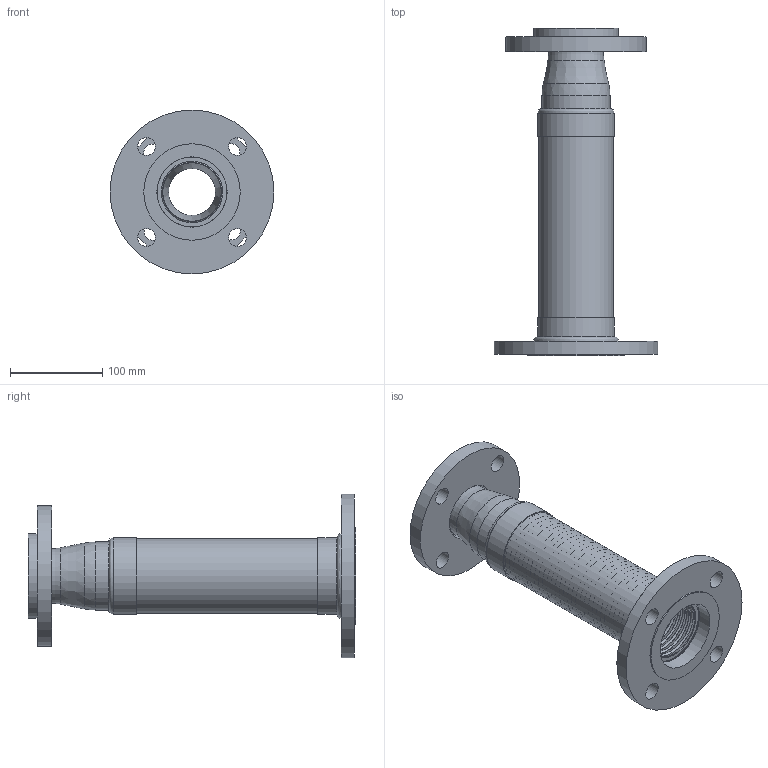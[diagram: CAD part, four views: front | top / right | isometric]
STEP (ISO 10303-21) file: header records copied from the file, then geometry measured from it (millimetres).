
FILE_DESCRIPTION((''),'2;1');
FILE_NAME('C:\2012_Work\Designs\RFFL\RFFL-2.5x2in.stp','2013-08-19T13:44:44',('KShiels'),(''),'Autodesk Inventor 2012','Autodesk Inventor 2012','');
FILE_SCHEMA(('AUTOMOTIVE_DESIGN { 1 0 10303 214 1 1 1 1 }'));
Length unit declared in the file: inch
Products named in the file (9): RFFL-2; RFFL-2_Welds; A-30992_2; A-30988_2; A-30989_2in-FLOATING-FLANGE; A-30991_2; A-30990_2in-WASHER
Assembly tree (9 placements, depth 2):
  RFFL-2
    RFFL-2_Welds
    A-30992_2
    A-30992_2
    A-30992_2  x2
    A-30988_2
    A-30989_2in-FLOATING-FLANGE
    A-30991_2
    A-30990_2in-WASHER
Bounding box: 177.8 x 355.76 x 177.8 mm (x, y, z)
Volume: 719873.2 mm3; surface area: 644130.1 mm2
Topology: 11 solids, 11 shells, 372 faces, 597 edges, 401 vertices
Faces by surface type: plane 176, torus 159, cylinder 28, cone 5, bspline 4
Full cylindrical faces by diameter (mm): 19.05 x8, 50.8 x1, 58.623 x1, 63.5 x4, 73.812 x2, 76.2 x1, 79.756 x1, 80.569 x3, 82.95 x3, 92.075 x1, 104.775 x1, 152.4 x1, 177.8 x1
Entity records: 8720 total; most frequent: CARTESIAN_POINT 2041, DIRECTION 1504, ORIENTED_EDGE 770, AXIS2_PLACEMENT_3D 752, EDGE_LOOP 749, EDGE_CURVE 385, VERTEX_POINT 382, FACE_BOUND 381
